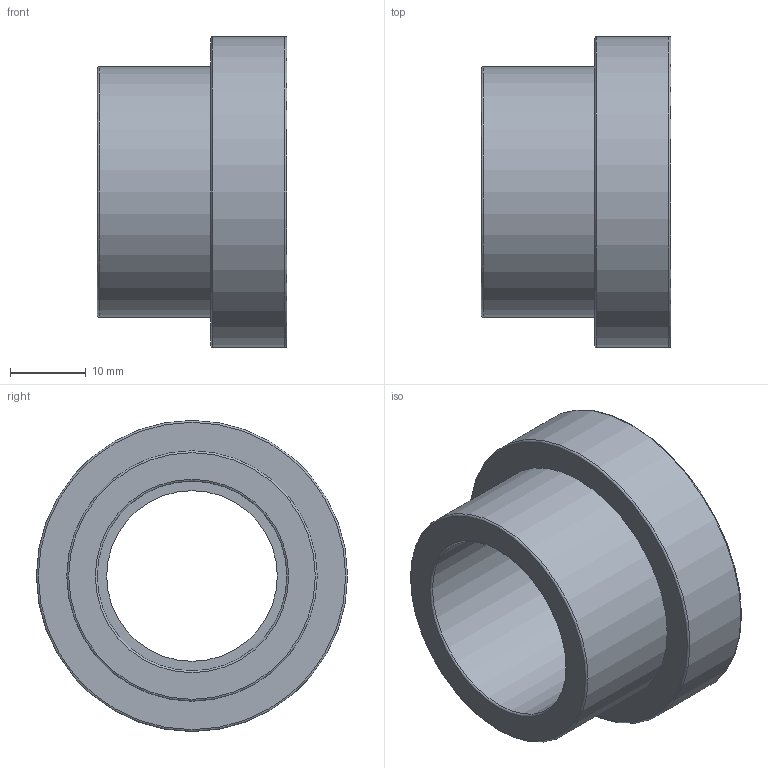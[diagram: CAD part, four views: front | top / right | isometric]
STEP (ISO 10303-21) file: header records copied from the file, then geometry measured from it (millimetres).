
FILE_DESCRIPTION(/* description */ ('PLASSON FLANGE AD.+O-RING-CE 25'),/* implementation_level */ '2;1');
FILE_NAME(/* name */ 'C:\Dropbox\KIMPROJECTS-Inventor\99-16-3568-Processing\PVC Catalog 2017\055000\055000025.ipt.stp',/* time_stamp */ '2017-12-07T16:04:31+02:00',/* author */ ('KIM'),/* organization */ (''),/* preprocessor_version */ 'ST-DEVELOPER v15.6',/* originating_system */ 'Autodesk Inventor 2015',/* authorisation */ '');
FILE_SCHEMA (('AUTOMOTIVE_DESIGN { 1 0 10303 214 3 1 1 }'));
Length unit declared in the file: millimetre
Products named in the file (1): 055000025
Bounding box: 25 x 41 x 41 mm (x, y, z)
Volume: 13482.5 mm3; surface area: 7105.7 mm2
Topology: 1 solids, 1 shells, 21 faces, 36 edges, 21 vertices
Faces by surface type: torus 9, plane 6, cylinder 6
Full cylindrical faces by diameter (mm): 22.5 x1, 25 x1, 28.975 x1, 33 x1, 34.525 x1, 41 x1
Entity records: 452 total; most frequent: DIRECTION 86, CARTESIAN_POINT 64, AXIS2_PLACEMENT_3D 43, EDGE_LOOP 42, ORIENTED_EDGE 42, FACE_BOUND 21, FACE_OUTER_BOUND 21, CIRCLE 21
